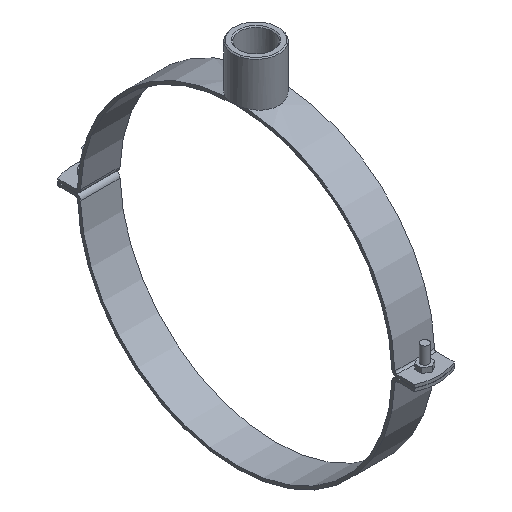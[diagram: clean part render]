
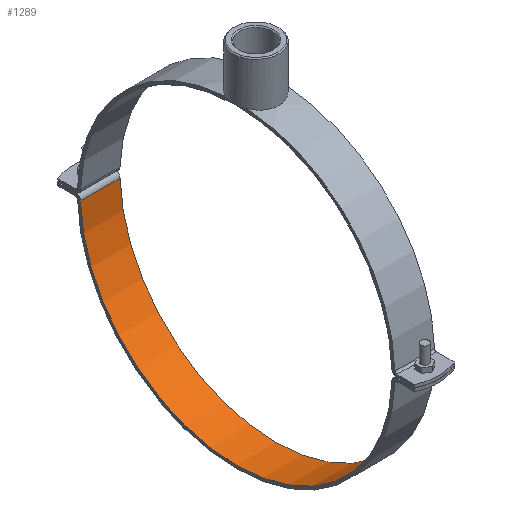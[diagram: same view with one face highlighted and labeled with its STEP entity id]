
A CAD part, isometric view. The second image highlights one B-rep face of the part: STEP entity #1289.
In plain terms, the highlighted cylindrical face has radius 157.5 mm (diameter 315 mm), a partial arc.
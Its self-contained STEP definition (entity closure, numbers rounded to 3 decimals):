
#114=LINE('',#2230,#226);
#115=LINE('',#2236,#227);
#226=VECTOR('',#1728,40.);
#227=VECTOR('',#1735,40.);
#265=CYLINDRICAL_SURFACE('',#1405,157.5);
#396=FACE_OUTER_BOUND('',#482,.T.);
#482=EDGE_LOOP('',(#1097,#1098,#1099,#1100));
#534=CIRCLE('',#1406,157.5);
#535=CIRCLE('',#1407,157.5);
#644=VERTEX_POINT('',#2228);
#645=VERTEX_POINT('',#2229);
#646=VERTEX_POINT('',#2234);
#647=VERTEX_POINT('',#2235);
#801=EDGE_CURVE('',#644,#645,#114,.T.);
#804=EDGE_CURVE('',#646,#647,#115,.T.);
#805=EDGE_CURVE('',#644,#646,#534,.T.);
#806=EDGE_CURVE('',#647,#645,#535,.T.);
#1097=ORIENTED_EDGE('',*,*,#804,.F.);
#1098=ORIENTED_EDGE('',*,*,#805,.F.);
#1099=ORIENTED_EDGE('',*,*,#801,.T.);
#1100=ORIENTED_EDGE('',*,*,#806,.F.);
#1289=ADVANCED_FACE('',(#396),#265,.F.);
#1405=AXIS2_PLACEMENT_3D('',#2233,#1733,#1734);
#1406=AXIS2_PLACEMENT_3D('',#2237,#1736,#1737);
#1407=AXIS2_PLACEMENT_3D('',#2238,#1738,#1739);
#1728=DIRECTION('',(-1.,0.,0.));
#1733=DIRECTION('center_axis',(1.,0.,0.));
#1734=DIRECTION('ref_axis',(0.,-1.,-0.031));
#1735=DIRECTION('',(-1.,0.,0.));
#1736=DIRECTION('center_axis',(-1.,0.,0.));
#1737=DIRECTION('ref_axis',(0.,-1.,-0.031));
#1738=DIRECTION('center_axis',(1.,0.,0.));
#1739=DIRECTION('ref_axis',(0.,-1.,-0.031));
#2228=CARTESIAN_POINT('',(20.,157.422,-4.943));
#2229=CARTESIAN_POINT('',(-20.,157.422,-4.943));
#2230=CARTESIAN_POINT('',(0.,157.422,-4.943));
#2233=CARTESIAN_POINT('Origin',(0.,0.,0.));
#2234=CARTESIAN_POINT('',(20.,-157.422,-4.943));
#2235=CARTESIAN_POINT('',(-20.,-157.422,-4.943));
#2236=CARTESIAN_POINT('',(0.,-157.422,-4.943));
#2237=CARTESIAN_POINT('Origin',(20.,0.,0.));
#2238=CARTESIAN_POINT('Origin',(-20.,0.,0.));
